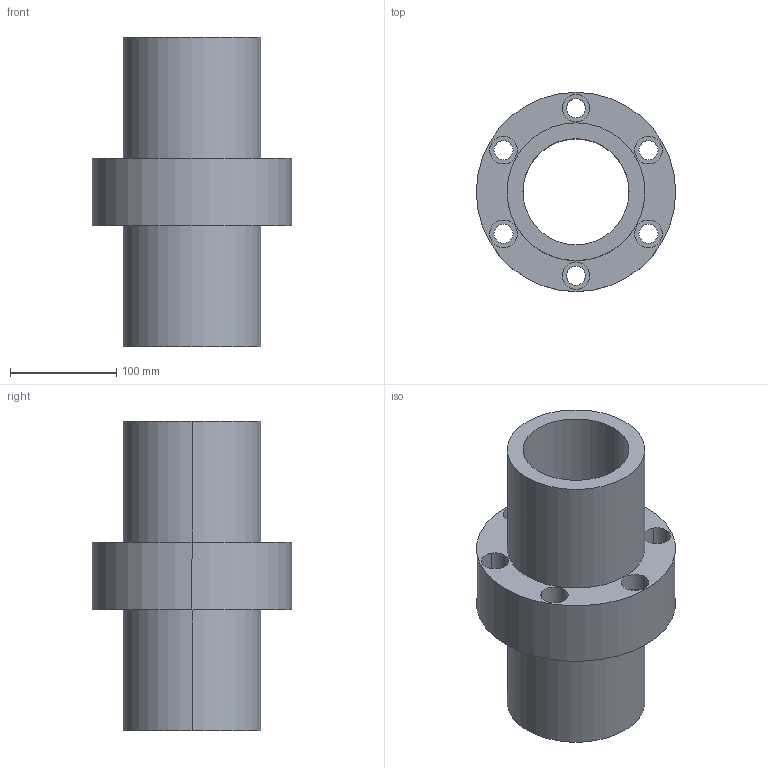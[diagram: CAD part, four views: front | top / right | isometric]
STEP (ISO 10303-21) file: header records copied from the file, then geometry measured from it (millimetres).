
FILE_DESCRIPTION((''),'2;1');
FILE_NAME('100-12T6','2008-04-07T',('yanyu'),(''),'PRO/ENGINEER BY PARAMETRIC TECHNOLOGY CORPORATION, 2005070','PRO/ENGINEER BY PARAMETRIC TECHNOLOGY CORPORATION, 2005070','');
FILE_SCHEMA(('CONFIG_CONTROL_DESIGN'));
Length unit declared in the file: millimetre
Products named in the file (1): 100-12T6
Bounding box: 188 x 188 x 292 mm (x, y, z)
Volume: 2382772.4 mm3; surface area: 283761.2 mm2
Topology: 1 solids, 1 shells, 42 faces, 104 edges, 72 vertices
Faces by surface type: cylinder 32, plane 10
Entity records: 1370 total; most frequent: DIRECTION 260, CARTESIAN_POINT 218, ORIENTED_EDGE 208, AXIS2_PLACEMENT_3D 114, EDGE_CURVE 104, VERTEX_POINT 72, CIRCLE 72, EDGE_LOOP 64
